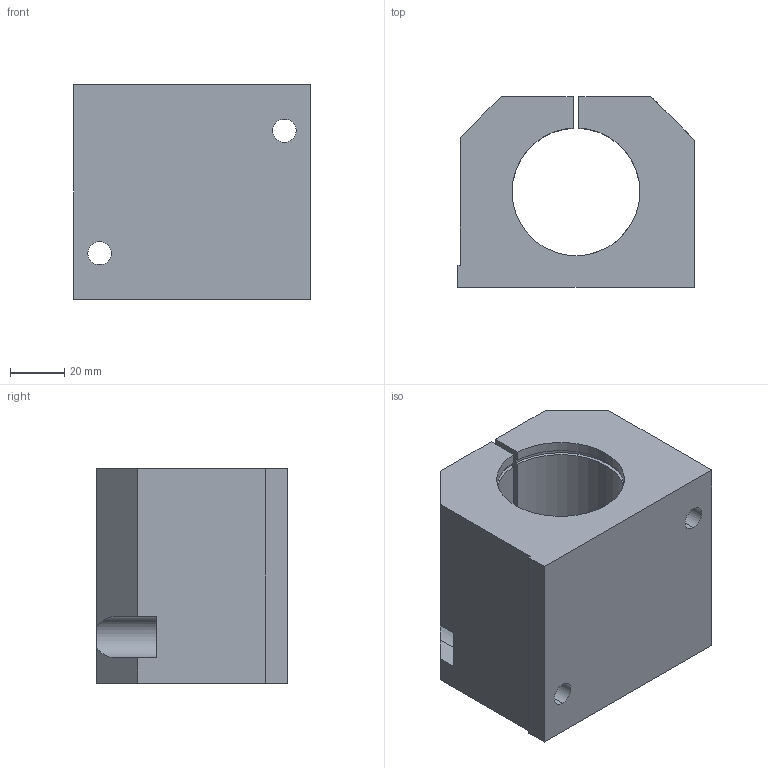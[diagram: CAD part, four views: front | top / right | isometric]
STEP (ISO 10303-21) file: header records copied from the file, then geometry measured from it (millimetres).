
FILE_DESCRIPTION (( 'STEP AP214' ), '1' );
FILE_NAME ('KGE36-30.step', '2020-03-04T13:20:19', ( '' ), ( '' ), 'SwSTEP 2.0', 'SolidWorks 2019', '' );
FILE_SCHEMA (( 'AUTOMOTIVE_DESIGN' ));
Length unit declared in the file: millimetre
Products named in the file (1): KGE36-30
Bounding box: 87 x 70 x 79 mm (x, y, z)
Volume: 302509.5 mm3; surface area: 50234.2 mm2
Topology: 1 solids, 1 shells, 61 faces, 168 edges, 109 vertices
Faces by surface type: cylinder 31, plane 26, cone 4
Entity records: 2130 total; most frequent: CARTESIAN_POINT 413, DIRECTION 340, ORIENTED_EDGE 332, EDGE_CURVE 166, AXIS2_PLACEMENT_3D 120, VERTEX_POINT 109, VECTOR 100, LINE 100
